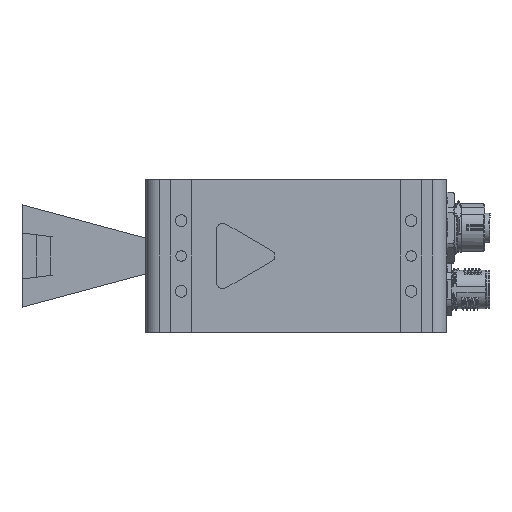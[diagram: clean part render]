
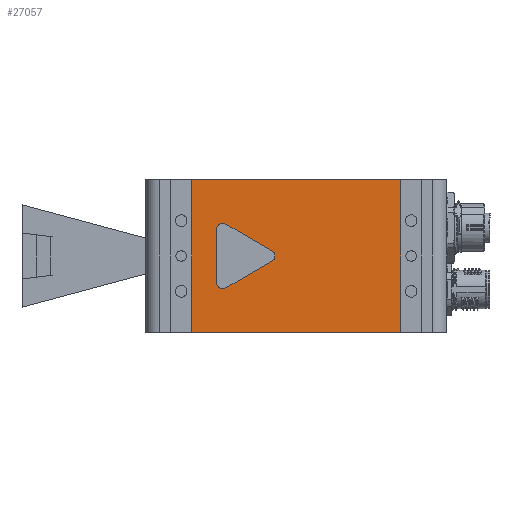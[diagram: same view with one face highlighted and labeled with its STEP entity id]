
A CAD part, left-side view. The second image highlights one B-rep face of the part: STEP entity #27057.
In plain terms, the highlighted planar face has unit normal (-1, 0, 0).
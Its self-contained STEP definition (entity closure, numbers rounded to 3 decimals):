
#1180=FACE_BOUND('',#5437,.T.);
#2308=PLANE('',#29707);
#3679=FACE_OUTER_BOUND('',#5436,.T.);
#5436=EDGE_LOOP('',(#23618,#23619,#23620,#23621));
#5437=EDGE_LOOP('',(#23622,#23623,#23624,#23625,#23626,#23627));
#7412=LINE('',#80868,#9492);
#7418=LINE('',#80880,#9498);
#7434=LINE('',#80911,#9514);
#7435=LINE('',#80912,#9515);
#7436=LINE('',#80917,#9516);
#7437=LINE('',#80921,#9517);
#7438=LINE('',#80924,#9518);
#9492=VECTOR('',#35994,10.);
#9498=VECTOR('',#36004,10.);
#9514=VECTOR('',#36030,10.);
#9515=VECTOR('',#36031,10.);
#9516=VECTOR('',#36034,10.);
#9517=VECTOR('',#36037,10.);
#9518=VECTOR('',#36040,10.);
#10924=CIRCLE('',#29708,1.75);
#10925=CIRCLE('',#29709,1.75);
#10926=CIRCLE('',#29710,1.75);
#13279=VERTEX_POINT('',#80866);
#13280=VERTEX_POINT('',#80867);
#13283=VERTEX_POINT('',#80878);
#13284=VERTEX_POINT('',#80879);
#13295=VERTEX_POINT('',#80913);
#13296=VERTEX_POINT('',#80914);
#13297=VERTEX_POINT('',#80916);
#13298=VERTEX_POINT('',#80918);
#13299=VERTEX_POINT('',#80920);
#13300=VERTEX_POINT('',#80922);
#16845=EDGE_CURVE('',#13279,#13280,#7412,.T.);
#16851=EDGE_CURVE('',#13283,#13284,#7418,.T.);
#16867=EDGE_CURVE('',#13283,#13280,#7434,.T.);
#16868=EDGE_CURVE('',#13284,#13279,#7435,.T.);
#16869=EDGE_CURVE('',#13295,#13296,#10924,.T.);
#16870=EDGE_CURVE('',#13296,#13297,#7436,.T.);
#16871=EDGE_CURVE('',#13297,#13298,#10925,.T.);
#16872=EDGE_CURVE('',#13298,#13299,#7437,.T.);
#16873=EDGE_CURVE('',#13299,#13300,#10926,.T.);
#16874=EDGE_CURVE('',#13300,#13295,#7438,.T.);
#23618=ORIENTED_EDGE('',*,*,#16845,.T.);
#23619=ORIENTED_EDGE('',*,*,#16867,.F.);
#23620=ORIENTED_EDGE('',*,*,#16851,.T.);
#23621=ORIENTED_EDGE('',*,*,#16868,.T.);
#23622=ORIENTED_EDGE('',*,*,#16869,.T.);
#23623=ORIENTED_EDGE('',*,*,#16870,.T.);
#23624=ORIENTED_EDGE('',*,*,#16871,.T.);
#23625=ORIENTED_EDGE('',*,*,#16872,.T.);
#23626=ORIENTED_EDGE('',*,*,#16873,.T.);
#23627=ORIENTED_EDGE('',*,*,#16874,.T.);
#27057=ADVANCED_FACE('',(#3679,#1180),#2308,.T.);
#29707=AXIS2_PLACEMENT_3D('',#80910,#36028,#36029);
#29708=AXIS2_PLACEMENT_3D('',#80915,#36032,#36033);
#29709=AXIS2_PLACEMENT_3D('',#80919,#36035,#36036);
#29710=AXIS2_PLACEMENT_3D('',#80923,#36038,#36039);
#35994=DIRECTION('',(0.,0.,-1.));
#36004=DIRECTION('',(0.,0.,1.));
#36028=DIRECTION('center_axis',(-1.,0.,0.));
#36029=DIRECTION('ref_axis',(0.,1.,0.));
#36030=DIRECTION('',(0.,1.,0.));
#36031=DIRECTION('',(0.,1.,0.));
#36032=DIRECTION('center_axis',(1.,0.,0.));
#36033=DIRECTION('ref_axis',(0.,-1.,0.));
#36034=DIRECTION('',(0.,0.,1.));
#36035=DIRECTION('center_axis',(1.,0.,0.));
#36036=DIRECTION('ref_axis',(0.,0.5,-0.866));
#36037=DIRECTION('',(0.,-0.866,-0.5));
#36038=DIRECTION('center_axis',(1.,0.,0.));
#36039=DIRECTION('ref_axis',(0.,0.5,0.866));
#36040=DIRECTION('',(0.,0.866,-0.5));
#80866=CARTESIAN_POINT('',(0.,72.,0.));
#80867=CARTESIAN_POINT('',(0.,72.,-43.));
#80868=CARTESIAN_POINT('',(0.,72.,-21.5));
#80878=CARTESIAN_POINT('',(0.,13.,-43.));
#80879=CARTESIAN_POINT('',(0.,13.,0.));
#80880=CARTESIAN_POINT('',(0.,13.,0.));
#80910=CARTESIAN_POINT('Origin',(0.,0.,0.));
#80911=CARTESIAN_POINT('',(0.,0.,-43.));
#80912=CARTESIAN_POINT('',(0.,0.,0.));
#80913=CARTESIAN_POINT('',(0.,62.375,-30.521));
#80914=CARTESIAN_POINT('',(0.,65.,-29.006));
#80915=CARTESIAN_POINT('Origin',(0.,63.25,-29.006));
#80916=CARTESIAN_POINT('',(0.,65.,-13.994));
#80917=CARTESIAN_POINT('',(0.,65.,-14.503));
#80918=CARTESIAN_POINT('',(0.,62.375,-12.479));
#80919=CARTESIAN_POINT('Origin',(0.,63.25,-13.994));
#80920=CARTESIAN_POINT('',(0.,49.375,-19.984));
#80921=CARTESIAN_POINT('',(0.,41.686,-24.424));
#80922=CARTESIAN_POINT('',(0.,49.375,-23.016));
#80923=CARTESIAN_POINT('Origin',(0.,50.25,-21.5));
#80924=CARTESIAN_POINT('',(0.,25.876,-9.449));
